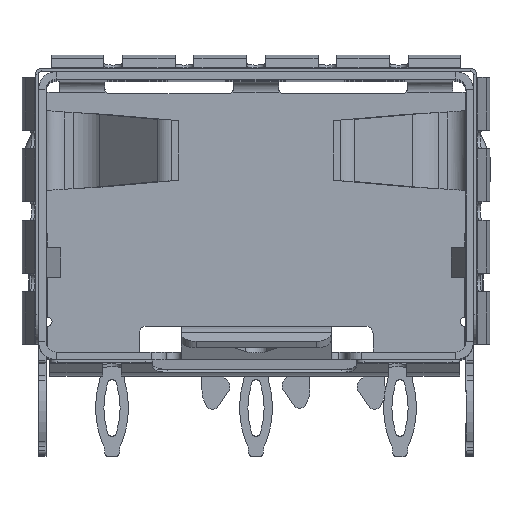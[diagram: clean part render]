
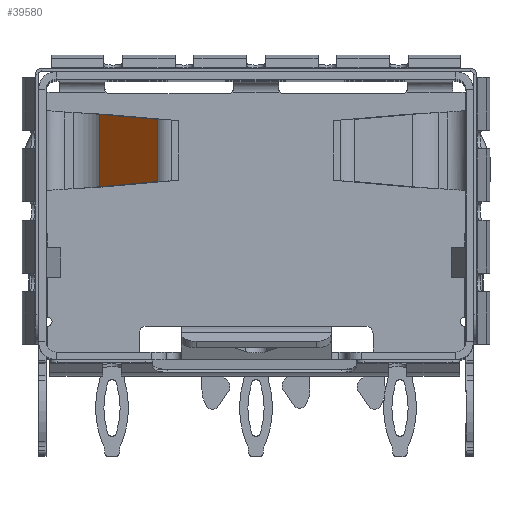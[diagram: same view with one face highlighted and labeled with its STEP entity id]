
A CAD part, top view. The second image highlights one B-rep face of the part: STEP entity #39580.
In plain terms, the highlighted planar face has unit normal (-0.743, 0, 0.669).
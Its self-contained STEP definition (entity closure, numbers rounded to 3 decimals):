
#17996=CARTESIAN_POINT('',(2.82,8.994,
-47.553));
#18009=DIRECTION('',(0.,1.,0.));
#18010=VECTOR('',#18009,2.413);
#18011=CARTESIAN_POINT('',(2.82,8.994,
-47.553));
#18012=LINE('',#18011,#18010);
#18021=DIRECTION('',(-0.668,-0.059,-0.742));
#18022=VECTOR('',#18021,2.904);
#18023=CARTESIAN_POINT('',(4.76,9.164,
-45.399));
#18024=LINE('',#18023,#18022);
#18025=DIRECTION('',(0.668,-0.059,0.742));
#18026=VECTOR('',#18025,2.904);
#18027=CARTESIAN_POINT('',(2.82,11.406,
-47.553));
#18028=LINE('',#18027,#18026);
#18051=DIRECTION('',(0.,1.,0.));
#18052=VECTOR('',#18051,2.072);
#18053=CARTESIAN_POINT('',(4.76,9.164,
-45.399));
#18054=LINE('',#18053,#18052);
#29740=VERTEX_POINT('',#17996);
#29741=CARTESIAN_POINT('',(2.82,11.406,
-47.553));
#29742=VERTEX_POINT('',#29741);
#29743=CARTESIAN_POINT('',(4.76,11.236,
-45.399));
#29744=VERTEX_POINT('',#29743);
#29747=CARTESIAN_POINT('',(4.76,9.164,
-45.399));
#29748=VERTEX_POINT('',#29747);
#39567=CARTESIAN_POINT('',(3.79,10.2,
-46.476));
#39568=DIRECTION('',(0.743,0.,-0.669));
#39569=DIRECTION('',(0.669,0.,0.743));
#39570=AXIS2_PLACEMENT_3D('',#39567,#39568,#39569);
#39571=PLANE('',#39570);
#39573=ORIENTED_EDGE('',*,*,#39572,.T.);
#39574=ORIENTED_EDGE('',*,*,#39510,.T.);
#39575=ORIENTED_EDGE('',*,*,#39557,.T.);
#39577=ORIENTED_EDGE('',*,*,#39576,.F.);
#39578=EDGE_LOOP('',(#39573,#39574,#39575,#39577));
#39579=FACE_OUTER_BOUND('',#39578,.F.);
#39580=ADVANCED_FACE('',(#39579),#39571,.F.);
#39510=EDGE_CURVE('',#29740,#29742,#18012,.T.);
#39557=EDGE_CURVE('',#29742,#29744,#18028,.T.);
#39572=EDGE_CURVE('',#29748,#29740,#18024,.T.);
#39576=EDGE_CURVE('',#29748,#29744,#18054,.T.);
